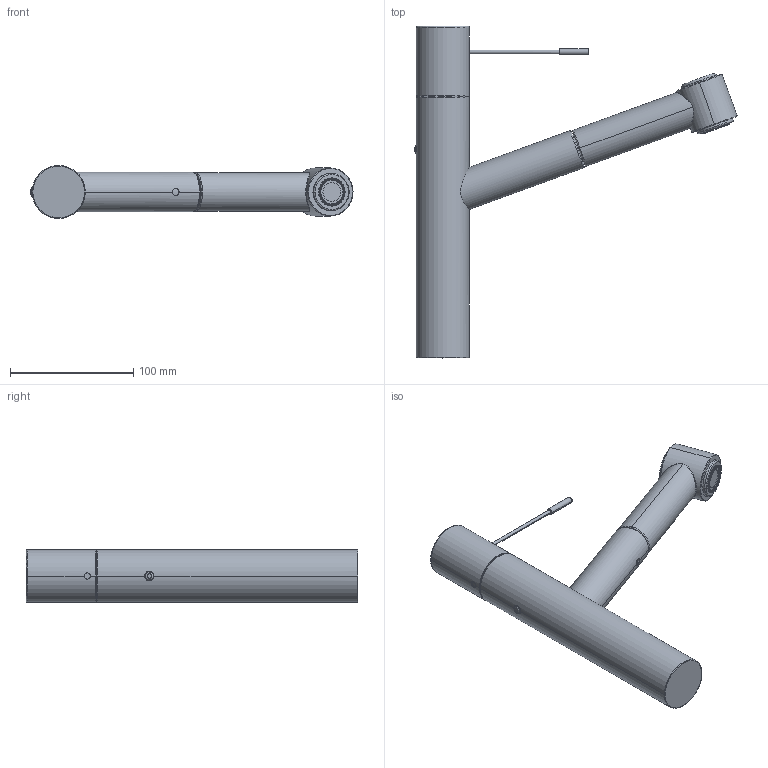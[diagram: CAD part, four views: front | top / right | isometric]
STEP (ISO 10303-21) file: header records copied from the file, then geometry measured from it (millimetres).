
FILE_DESCRIPTION((''),'2;1');
FILE_NAME('10_151_033_XXX','2012-01-04T',('hpf'),(''),'PRO/ENGINEER BY PARAMETRIC TECHNOLOGY CORPORATION, 2011080','PRO/ENGINEER BY PARAMETRIC TECHNOLOGY CORPORATION, 2011080','');
FILE_SCHEMA(('AUTOMOTIVE_DESIGN_CC2 { 1 2 10303 214 -1 1 5 2 }'));
Length unit declared in the file: millimetre
Products named in the file (1): 10_151_033_XXX
Bounding box: 261.15 x 269.15 x 43 mm (x, y, z)
Volume: 585414.7 mm3; surface area: 66248.1 mm2
Topology: 1 solids, 2 shells, 214 faces, 439 edges, 264 vertices
Faces by surface type: torus 70, cone 54, plane 45, cylinder 39, bspline 6
Entity records: 9798 total; most frequent: CARTESIAN_POINT 2529, DIRECTION 1123, ORIENTED_EDGE 878, AXIS2_PLACEMENT_3D 510, EDGE_CURVE 439, FILL_AREA_STYLE_COLOUR 419, FILL_AREA_STYLE 419, SURFACE_STYLE_FILL_AREA 419
